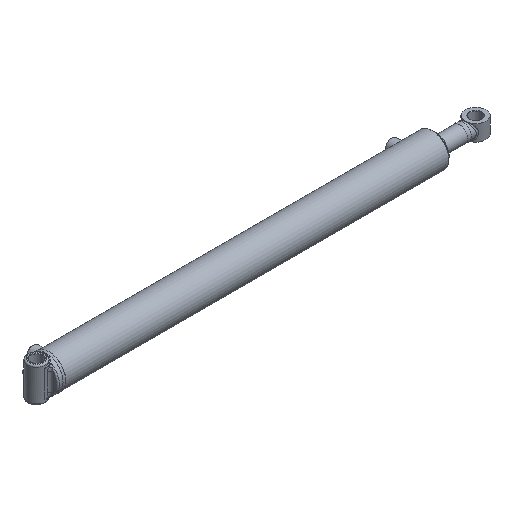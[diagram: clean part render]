
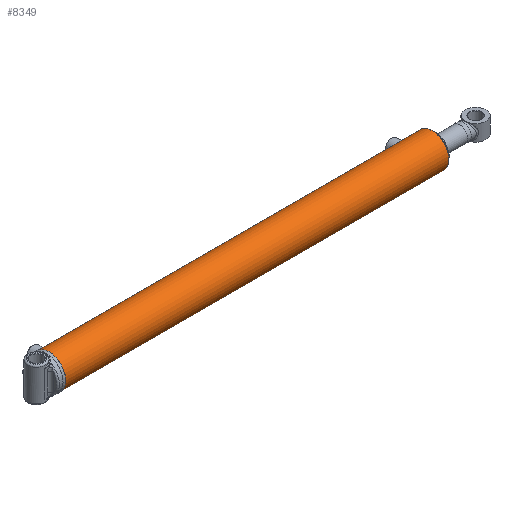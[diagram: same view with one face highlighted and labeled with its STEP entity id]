
A CAD part, isometric view. The second image highlights one B-rep face of the part: STEP entity #8349.
In plain terms, the highlighted cylindrical face has radius 36.513 mm (diameter 73.025 mm), a full revolution.
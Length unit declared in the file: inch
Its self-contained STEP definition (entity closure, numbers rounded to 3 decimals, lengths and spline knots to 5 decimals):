
#803=B_SPLINE_CURVE_WITH_KNOTS('',3,(#12229,#12230,#12231,#12232,#12233,
#12234,#12235,#12236,#12237,#12238),.UNSPECIFIED.,.F.,.F.,(4,2,2,2,4),(0.,
0.17962,0.35924,0.53885,0.71847),
 .UNSPECIFIED.);
#804=B_SPLINE_CURVE_WITH_KNOTS('',3,(#12239,#12240,#12241,#12242,#12243,
#12244,#12245,#12246,#12247,#12248,#12249,#12250,#12251,#12252,#12253,#12254,
#12255,#12256,#12257,#12258,#12259,#12260,#12261,#12262,#12263,#12264),
 .UNSPECIFIED.,.F.,.F.,(4,2,2,2,2,2,2,2,2,2,2,2,4),(0.71847,0.89808,
1.0777,1.25732,1.43694,1.61655,1.79617,
1.97579,2.1554,2.33502,2.51464,2.69425,
2.87387),.UNSPECIFIED.);
#805=B_SPLINE_CURVE_WITH_KNOTS('',3,(#12269,#12270,#12271,#12272,#12273,
#12274,#12275,#12276,#12277,#12278),.UNSPECIFIED.,.F.,.F.,(4,2,2,2,4),(0.,
0.17962,0.35924,0.53885,0.71847),
 .UNSPECIFIED.);
#806=B_SPLINE_CURVE_WITH_KNOTS('',3,(#12279,#12280,#12281,#12282,#12283,
#12284,#12285,#12286,#12287,#12288,#12289,#12290,#12291,#12292,#12293,#12294,
#12295,#12296,#12297,#12298,#12299,#12300,#12301,#12302,#12303,#12304),
 .UNSPECIFIED.,.F.,.F.,(4,2,2,2,2,2,2,2,2,2,2,2,4),(0.71847,0.89808,
1.0777,1.25732,1.43694,1.61655,1.79617,
1.97579,2.1554,2.33502,2.51464,2.69425,
2.87387),.UNSPECIFIED.);
#1153=FACE_BOUND('',#2720,.T.);
#1154=FACE_BOUND('',#2721,.T.);
#1432=LINE('',#12332,#1775);
#1775=VECTOR('',#10077,1.4375);
#2115=CYLINDRICAL_SURFACE('',#9120,1.4375);
#2205=FACE_OUTER_BOUND('',#2719,.T.);
#2719=EDGE_LOOP('',(#5884,#5885,#5886,#5887,#5888,#5889));
#2720=EDGE_LOOP('',(#5890,#5891));
#2721=EDGE_LOOP('',(#5892,#5893));
#3318=CIRCLE('',#9117,1.4375);
#3320=CIRCLE('',#9119,1.4375);
#3321=CIRCLE('',#9121,1.4375);
#3322=CIRCLE('',#9122,1.4375);
#3791=VERTEX_POINT('',#12226);
#3792=VERTEX_POINT('',#12228);
#3793=VERTEX_POINT('',#12266);
#3794=VERTEX_POINT('',#12268);
#3801=VERTEX_POINT('',#12325);
#3802=VERTEX_POINT('',#12326);
#3803=VERTEX_POINT('',#12331);
#3804=VERTEX_POINT('',#12333);
#4597=EDGE_CURVE('',#3792,#3791,#803,.T.);
#4598=EDGE_CURVE('',#3791,#3792,#804,.T.);
#4600=EDGE_CURVE('',#3794,#3793,#805,.T.);
#4601=EDGE_CURVE('',#3793,#3794,#806,.T.);
#4611=EDGE_CURVE('',#3801,#3802,#3318,.T.);
#4613=EDGE_CURVE('',#3802,#3801,#3320,.T.);
#4614=EDGE_CURVE('',#3801,#3803,#1432,.T.);
#4615=EDGE_CURVE('',#3804,#3803,#3321,.T.);
#4616=EDGE_CURVE('',#3803,#3804,#3322,.T.);
#5884=ORIENTED_EDGE('',*,*,#4611,.F.);
#5885=ORIENTED_EDGE('',*,*,#4614,.T.);
#5886=ORIENTED_EDGE('',*,*,#4615,.F.);
#5887=ORIENTED_EDGE('',*,*,#4616,.F.);
#5888=ORIENTED_EDGE('',*,*,#4614,.F.);
#5889=ORIENTED_EDGE('',*,*,#4613,.F.);
#5890=ORIENTED_EDGE('',*,*,#4597,.T.);
#5891=ORIENTED_EDGE('',*,*,#4598,.T.);
#5892=ORIENTED_EDGE('',*,*,#4600,.T.);
#5893=ORIENTED_EDGE('',*,*,#4601,.T.);
#8349=ADVANCED_FACE('',(#2205,#1153,#1154),#2115,.T.);
#9117=AXIS2_PLACEMENT_3D('',#12327,#10069,#10070);
#9119=AXIS2_PLACEMENT_3D('',#12329,#10073,#10074);
#9120=AXIS2_PLACEMENT_3D('',#12330,#10075,#10076);
#9121=AXIS2_PLACEMENT_3D('',#12334,#10078,#10079);
#9122=AXIS2_PLACEMENT_3D('',#12335,#10080,#10081);
#10069=DIRECTION('center_axis',(1.,0.,0.));
#10070=DIRECTION('ref_axis',(0.,-1.,0.));
#10073=DIRECTION('center_axis',(1.,0.,0.));
#10074=DIRECTION('ref_axis',(0.,-1.,0.));
#10075=DIRECTION('center_axis',(1.,0.,0.));
#10076=DIRECTION('ref_axis',(0.,-1.,0.));
#10077=DIRECTION('',(-1.,0.,0.));
#10078=DIRECTION('center_axis',(-1.,0.,0.));
#10079=DIRECTION('ref_axis',(0.,-1.,0.));
#10080=DIRECTION('center_axis',(-1.,0.,0.));
#10081=DIRECTION('ref_axis',(0.,-1.,0.));
#12226=CARTESIAN_POINT('',(0.5925,0.,1.4375));
#12228=CARTESIAN_POINT('',(0.78,-0.1875,1.42522));
#12229=CARTESIAN_POINT('Ctrl Pts',(0.78,-0.1875,1.42522));
#12230=CARTESIAN_POINT('Ctrl Pts',(0.75643,-0.1875,1.42522));
#12231=CARTESIAN_POINT('Ctrl Pts',(0.7313,-0.18278,
1.42586));
#12232=CARTESIAN_POINT('Ctrl Pts',(0.68512,-0.16364,
1.42819));
#12233=CARTESIAN_POINT('Ctrl Pts',(0.66405,-0.14921,
1.42983));
#12234=CARTESIAN_POINT('Ctrl Pts',(0.63079,-0.11595,
1.43291));
#12235=CARTESIAN_POINT('Ctrl Pts',(0.61636,-0.09488,
1.43455));
#12236=CARTESIAN_POINT('Ctrl Pts',(0.59722,-0.0487,
1.43686));
#12237=CARTESIAN_POINT('Ctrl Pts',(0.5925,-0.02357,1.4375));
#12238=CARTESIAN_POINT('Ctrl Pts',(0.5925,0.,1.4375));
#12239=CARTESIAN_POINT('Ctrl Pts',(0.5925,0.,1.4375));
#12240=CARTESIAN_POINT('Ctrl Pts',(0.5925,0.02357,1.4375));
#12241=CARTESIAN_POINT('Ctrl Pts',(0.59722,0.0487,
1.43686));
#12242=CARTESIAN_POINT('Ctrl Pts',(0.61636,0.09488,
1.43455));
#12243=CARTESIAN_POINT('Ctrl Pts',(0.63079,0.11595,
1.43291));
#12244=CARTESIAN_POINT('Ctrl Pts',(0.66405,0.14921,
1.42983));
#12245=CARTESIAN_POINT('Ctrl Pts',(0.68512,0.16364,
1.42819));
#12246=CARTESIAN_POINT('Ctrl Pts',(0.7313,0.18278,
1.42586));
#12247=CARTESIAN_POINT('Ctrl Pts',(0.75643,0.1875,1.42522));
#12248=CARTESIAN_POINT('Ctrl Pts',(0.80357,0.1875,1.42522));
#12249=CARTESIAN_POINT('Ctrl Pts',(0.8287,0.18278,
1.42586));
#12250=CARTESIAN_POINT('Ctrl Pts',(0.87488,0.16364,
1.42819));
#12251=CARTESIAN_POINT('Ctrl Pts',(0.89595,0.14921,
1.42983));
#12252=CARTESIAN_POINT('Ctrl Pts',(0.92921,0.11595,
1.43291));
#12253=CARTESIAN_POINT('Ctrl Pts',(0.94364,0.09488,
1.43455));
#12254=CARTESIAN_POINT('Ctrl Pts',(0.96278,0.0487,
1.43686));
#12255=CARTESIAN_POINT('Ctrl Pts',(0.9675,0.02357,1.4375));
#12256=CARTESIAN_POINT('Ctrl Pts',(0.9675,-0.02357,1.4375));
#12257=CARTESIAN_POINT('Ctrl Pts',(0.96278,-0.0487,
1.43686));
#12258=CARTESIAN_POINT('Ctrl Pts',(0.94364,-0.09488,
1.43455));
#12259=CARTESIAN_POINT('Ctrl Pts',(0.92921,-0.11595,
1.43291));
#12260=CARTESIAN_POINT('Ctrl Pts',(0.89595,-0.14921,
1.42983));
#12261=CARTESIAN_POINT('Ctrl Pts',(0.87488,-0.16364,
1.42819));
#12262=CARTESIAN_POINT('Ctrl Pts',(0.8287,-0.18278,
1.42586));
#12263=CARTESIAN_POINT('Ctrl Pts',(0.80357,-0.1875,1.42522));
#12264=CARTESIAN_POINT('Ctrl Pts',(0.78,-0.1875,1.42522));
#12266=CARTESIAN_POINT('',(31.6095,0.,1.4375));
#12268=CARTESIAN_POINT('',(31.797,-0.1875,1.42522));
#12269=CARTESIAN_POINT('Ctrl Pts',(31.797,-0.1875,1.42522));
#12270=CARTESIAN_POINT('Ctrl Pts',(31.77343,-0.1875,
1.42522));
#12271=CARTESIAN_POINT('Ctrl Pts',(31.7483,-0.18278,
1.42586));
#12272=CARTESIAN_POINT('Ctrl Pts',(31.70212,-0.16364,
1.42819));
#12273=CARTESIAN_POINT('Ctrl Pts',(31.68105,-0.14921,
1.42983));
#12274=CARTESIAN_POINT('Ctrl Pts',(31.64779,-0.11595,1.43291));
#12275=CARTESIAN_POINT('Ctrl Pts',(31.63336,-0.09488,
1.43455));
#12276=CARTESIAN_POINT('Ctrl Pts',(31.61422,-0.0487,
1.43686));
#12277=CARTESIAN_POINT('Ctrl Pts',(31.6095,-0.02357,1.4375));
#12278=CARTESIAN_POINT('Ctrl Pts',(31.6095,0.,1.4375));
#12279=CARTESIAN_POINT('Ctrl Pts',(31.6095,0.,1.4375));
#12280=CARTESIAN_POINT('Ctrl Pts',(31.6095,0.02357,1.4375));
#12281=CARTESIAN_POINT('Ctrl Pts',(31.61422,0.0487,
1.43686));
#12282=CARTESIAN_POINT('Ctrl Pts',(31.63336,0.09488,
1.43455));
#12283=CARTESIAN_POINT('Ctrl Pts',(31.64779,0.11595,1.43291));
#12284=CARTESIAN_POINT('Ctrl Pts',(31.68105,0.14921,1.42983));
#12285=CARTESIAN_POINT('Ctrl Pts',(31.70212,0.16364,1.42819));
#12286=CARTESIAN_POINT('Ctrl Pts',(31.7483,0.18278,1.42586));
#12287=CARTESIAN_POINT('Ctrl Pts',(31.77343,0.1875,1.42522));
#12288=CARTESIAN_POINT('Ctrl Pts',(31.82057,0.1875,1.42522));
#12289=CARTESIAN_POINT('Ctrl Pts',(31.8457,0.18278,1.42586));
#12290=CARTESIAN_POINT('Ctrl Pts',(31.89188,0.16364,1.42819));
#12291=CARTESIAN_POINT('Ctrl Pts',(31.91295,0.14921,1.42983));
#12292=CARTESIAN_POINT('Ctrl Pts',(31.94621,0.11595,1.43291));
#12293=CARTESIAN_POINT('Ctrl Pts',(31.96064,0.09488,
1.43455));
#12294=CARTESIAN_POINT('Ctrl Pts',(31.97978,0.0487,
1.43686));
#12295=CARTESIAN_POINT('Ctrl Pts',(31.9845,0.02357,1.4375));
#12296=CARTESIAN_POINT('Ctrl Pts',(31.9845,-0.02357,1.4375));
#12297=CARTESIAN_POINT('Ctrl Pts',(31.97978,-0.0487,
1.43686));
#12298=CARTESIAN_POINT('Ctrl Pts',(31.96064,-0.09488,
1.43455));
#12299=CARTESIAN_POINT('Ctrl Pts',(31.94621,-0.11595,1.43291));
#12300=CARTESIAN_POINT('Ctrl Pts',(31.91295,-0.14921,
1.42983));
#12301=CARTESIAN_POINT('Ctrl Pts',(31.89188,-0.16364,
1.42819));
#12302=CARTESIAN_POINT('Ctrl Pts',(31.8457,-0.18278,
1.42586));
#12303=CARTESIAN_POINT('Ctrl Pts',(31.82057,-0.1875,
1.42522));
#12304=CARTESIAN_POINT('Ctrl Pts',(31.797,-0.1875,1.42522));
#12325=CARTESIAN_POINT('',(33.227,1.4375,0.));
#12326=CARTESIAN_POINT('',(33.227,0.,-1.4375));
#12327=CARTESIAN_POINT('Origin',(33.227,0.,0.));
#12329=CARTESIAN_POINT('Origin',(33.227,0.,0.));
#12330=CARTESIAN_POINT('Origin',(0.,0.,0.));
#12331=CARTESIAN_POINT('',(0.09382,1.4375,0.));
#12332=CARTESIAN_POINT('',(0.,1.4375,0.));
#12333=CARTESIAN_POINT('',(0.09382,0.,1.4375));
#12334=CARTESIAN_POINT('Origin',(0.09382,0.,0.));
#12335=CARTESIAN_POINT('Origin',(0.09382,0.,0.));
